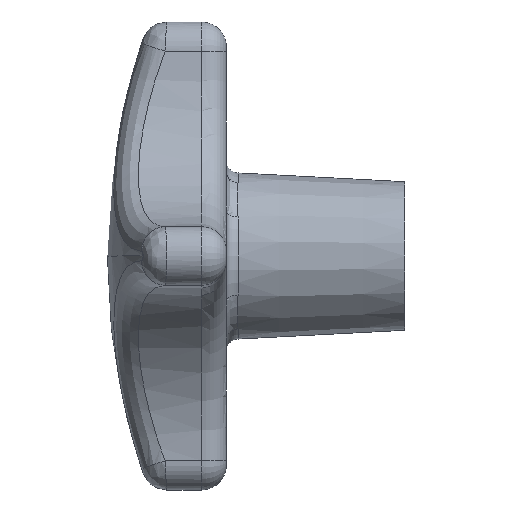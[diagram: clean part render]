
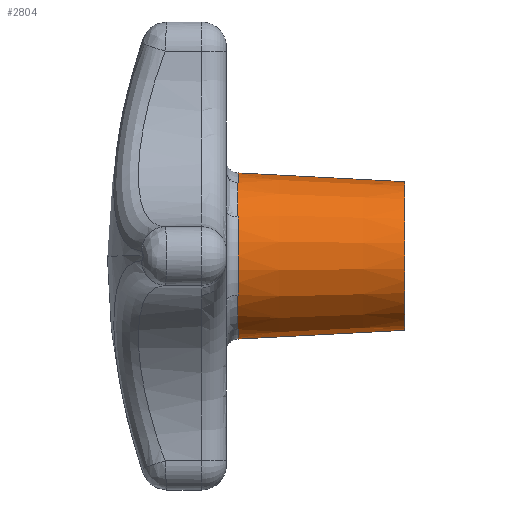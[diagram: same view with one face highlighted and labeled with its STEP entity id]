
A CAD part, left-side view. The second image highlights one B-rep face of the part: STEP entity #2804.
In plain terms, the highlighted conical face has half-angle 3 degrees and reference radius 10 mm.
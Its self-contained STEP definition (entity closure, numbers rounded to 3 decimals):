
#20 = EDGE_CURVE ( 'NONE', #249, #765, #1136, .T. ) ;
#38 = CARTESIAN_POINT ( 'NONE',  ( -9.307, -1.559, 6.212 ) ) ;
#49 = CARTESIAN_POINT ( 'NONE',  ( -9.862, -1.579, 5.256 ) ) ;
#77 = DIRECTION ( 'NONE',  ( 0., 0.999, -0.052 ) ) ;
#83 = EDGE_LOOP ( 'NONE', ( #1718, #2640, #897, #1010, #2826, #1149, #1282, #387 ) ) ;
#112 = CARTESIAN_POINT ( 'NONE',  ( -6.877, -1.533, -8.816 ) ) ;
#197 = CARTESIAN_POINT ( 'NONE',  ( 0., -1.579, -11.175 ) ) ;
#233 = CARTESIAN_POINT ( 'NONE',  ( -8.093, -1.511, 7.716 ) ) ;
#249 = VERTEX_POINT ( 'NONE', #2387 ) ;
#255 = DIRECTION ( 'NONE',  ( 0., 0.999, 0.052 ) ) ;
#268 = EDGE_CURVE ( 'NONE', #975, #427, #2484, .T. ) ;
#387 = ORIENTED_EDGE ( 'NONE', *, *, #956, .T. ) ;
#405 = AXIS2_PLACEMENT_3D ( 'NONE', #2440, #2191, #2422 ) ;
#413 = DIRECTION ( 'NONE',  ( 0., 0., -1. ) ) ;
#424 = EDGE_CURVE ( 'NONE', #2386, #2891, #1858, .T. ) ;
#427 = VERTEX_POINT ( 'NONE', #2728 ) ;
#478 = CARTESIAN_POINT ( 'NONE',  ( -7.091, -1.525, 8.658 ) ) ;
#482 = CARTESIAN_POINT ( 'NONE',  ( 0., -24., 10. ) ) ;
#490 = CARTESIAN_POINT ( 'NONE',  ( -8.644, -1.525, 7.093 ) ) ;
#500 = CARTESIAN_POINT ( 'NONE',  ( 0., -24., 10. ) ) ;
#541 = CARTESIAN_POINT ( 'NONE',  ( -8.301, -1.512, -7.507 ) ) ;
#545 = CARTESIAN_POINT ( 'NONE',  ( 0., -24., -10. ) ) ;
#627 = CARTESIAN_POINT ( 'NONE',  ( 0., -24., 0. ) ) ;
#668 = CARTESIAN_POINT ( 'NONE',  ( -8.816, -1.533, 6.877 ) ) ;
#673 = DIRECTION ( 'NONE',  ( 0., -1., 0. ) ) ;
#742 = CARTESIAN_POINT ( 'NONE',  ( -8.658, -1.525, -7.091 ) ) ;
#765 = VERTEX_POINT ( 'NONE', #482 ) ;
#856 = EDGE_CURVE ( 'NONE', #2891, #2537, #2500, .T. ) ;
#897 = ORIENTED_EDGE ( 'NONE', *, *, #2416, .T. ) ;
#916 = AXIS2_PLACEMENT_3D ( 'NONE', #1557, #673, #1110 ) ;
#956 = EDGE_CURVE ( 'NONE', #2537, #1259, #1243, .T. ) ;
#975 = VERTEX_POINT ( 'NONE', #1570 ) ;
#978 = CARTESIAN_POINT ( 'NONE',  ( -7.716, -1.511, -8.093 ) ) ;
#1007 = CONICAL_SURFACE ( 'NONE', #1315, 10., 0.052 ) ;
#1010 = ORIENTED_EDGE ( 'NONE', *, *, #268, .T. ) ;
#1070 = LINE ( 'NONE', #500, #2597 ) ;
#1110 = DIRECTION ( 'NONE',  ( 0., 0., -1. ) ) ;
#1136 = CIRCLE ( 'NONE', #405, 10. ) ;
#1149 = ORIENTED_EDGE ( 'NONE', *, *, #424, .T. ) ;
#1156 = CARTESIAN_POINT ( 'NONE',  ( -9.862, -1.579, 5.256 ) ) ;
#1211 = CARTESIAN_POINT ( 'NONE',  ( -7.512, -1.514, -8.283 ) ) ;
#1243 = CIRCLE ( 'NONE', #916, 11.175 ) ;
#1259 = VERTEX_POINT ( 'NONE', #197 ) ;
#1282 = ORIENTED_EDGE ( 'NONE', *, *, #856, .T. ) ;
#1315 = AXIS2_PLACEMENT_3D ( 'NONE', #627, #2004, #1540 ) ;
#1354 = CARTESIAN_POINT ( 'NONE',  ( -5.256, -1.579, 9.862 ) ) ;
#1422 = CARTESIAN_POINT ( 'NONE',  ( -7.093, -1.525, -8.644 ) ) ;
#1436 = CARTESIAN_POINT ( 'NONE',  ( -5.746, -1.579, -9.601 ) ) ;
#1447 = CARTESIAN_POINT ( 'NONE',  ( -9.308, -1.559, -6.211 ) ) ;
#1540 = DIRECTION ( 'NONE',  ( 0., 0., 1. ) ) ;
#1545 = DIRECTION ( 'NONE',  ( 0., -1., 0. ) ) ;
#1557 = CARTESIAN_POINT ( 'NONE',  ( 0., -1.579, 0. ) ) ;
#1570 = CARTESIAN_POINT ( 'NONE',  ( 0., -1.579, 11.175 ) ) ;
#1622 = AXIS2_PLACEMENT_3D ( 'NONE', #1997, #1545, #413 ) ;
#1635 = LINE ( 'NONE', #545, #1962 ) ;
#1671 = CARTESIAN_POINT ( 'NONE',  ( -5.256, -1.579, -9.862 ) ) ;
#1705 = FACE_OUTER_BOUND ( 'NONE', #83, .T. ) ;
#1718 = ORIENTED_EDGE ( 'NONE', *, *, #2591, .F. ) ;
#1823 = CARTESIAN_POINT ( 'NONE',  ( -6.211, -1.559, 9.308 ) ) ;
#1838 = CARTESIAN_POINT ( 'NONE',  ( -7.507, -1.512, 8.301 ) ) ;
#1840 = B_SPLINE_CURVE_WITH_KNOTS ( 'NONE', 3,
 ( #1354, #2260, #1823, #478, #1838, #233, #1846, #490, #668, #38, #2481, #49 ),
 .UNSPECIFIED., .F., .F.,
 ( 4, 2, 2, 2, 2, 4 ),
 ( 0., 0.002, 0.003, 0.004, 0.005, 0.007 ),
 .UNSPECIFIED. ) ;
#1846 = CARTESIAN_POINT ( 'NONE',  ( -8.283, -1.514, 7.512 ) ) ;
#1858 = CIRCLE ( 'NONE', #2187, 11.175 ) ;
#1889 = CARTESIAN_POINT ( 'NONE',  ( -9.601, -1.579, -5.746 ) ) ;
#1900 = CARTESIAN_POINT ( 'NONE',  ( -6.212, -1.559, -9.307 ) ) ;
#1962 = VECTOR ( 'NONE', #77, 1000. ) ;
#1997 = CARTESIAN_POINT ( 'NONE',  ( 0., -1.579, 0. ) ) ;
#2004 = DIRECTION ( 'NONE',  ( 0., 1., 0. ) ) ;
#2115 = CARTESIAN_POINT ( 'NONE',  ( -9.862, -1.579, -5.256 ) ) ;
#2125 = CARTESIAN_POINT ( 'NONE',  ( 0., -1.579, 0. ) ) ;
#2187 = AXIS2_PLACEMENT_3D ( 'NONE', #2125, #2344, #2795 ) ;
#2191 = DIRECTION ( 'NONE',  ( 0., 1., 0. ) ) ;
#2260 = CARTESIAN_POINT ( 'NONE',  ( -5.746, -1.579, 9.601 ) ) ;
#2282 = EDGE_CURVE ( 'NONE', #427, #2386, #1840, .T. ) ;
#2344 = DIRECTION ( 'NONE',  ( 0., -1., 0. ) ) ;
#2386 = VERTEX_POINT ( 'NONE', #1156 ) ;
#2387 = CARTESIAN_POINT ( 'NONE',  ( 0., -24., -10. ) ) ;
#2416 = EDGE_CURVE ( 'NONE', #765, #975, #1070, .T. ) ;
#2422 = DIRECTION ( 'NONE',  ( 0., 0., 1. ) ) ;
#2440 = CARTESIAN_POINT ( 'NONE',  ( 0., -24., 0. ) ) ;
#2481 = CARTESIAN_POINT ( 'NONE',  ( -9.601, -1.579, 5.746 ) ) ;
#2484 = CIRCLE ( 'NONE', #1622, 11.175 ) ;
#2500 = B_SPLINE_CURVE_WITH_KNOTS ( 'NONE', 3,
 ( #2115, #1889, #1447, #742, #541, #978, #1211, #1422, #112, #1900, #1436, #1671 ),
 .UNSPECIFIED., .F., .F.,
 ( 4, 2, 2, 2, 2, 4 ),
 ( 0., 0.002, 0.003, 0.004, 0.005, 0.007 ),
 .UNSPECIFIED. ) ;
#2537 = VERTEX_POINT ( 'NONE', #2774 ) ;
#2591 = EDGE_CURVE ( 'NONE', #249, #1259, #1635, .T. ) ;
#2597 = VECTOR ( 'NONE', #255, 1000. ) ;
#2640 = ORIENTED_EDGE ( 'NONE', *, *, #20, .T. ) ;
#2728 = CARTESIAN_POINT ( 'NONE',  ( -5.256, -1.579, 9.862 ) ) ;
#2774 = CARTESIAN_POINT ( 'NONE',  ( -5.256, -1.579, -9.862 ) ) ;
#2785 = CARTESIAN_POINT ( 'NONE',  ( -9.862, -1.579, -5.256 ) ) ;
#2795 = DIRECTION ( 'NONE',  ( 0., 0., -1. ) ) ;
#2804 = ADVANCED_FACE ( 'NONE', ( #1705 ), #1007, .T. ) ;
#2826 = ORIENTED_EDGE ( 'NONE', *, *, #2282, .T. ) ;
#2891 = VERTEX_POINT ( 'NONE', #2785 ) ;
